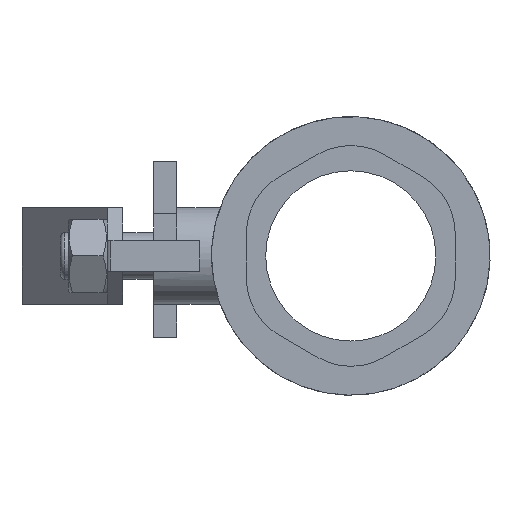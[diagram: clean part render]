
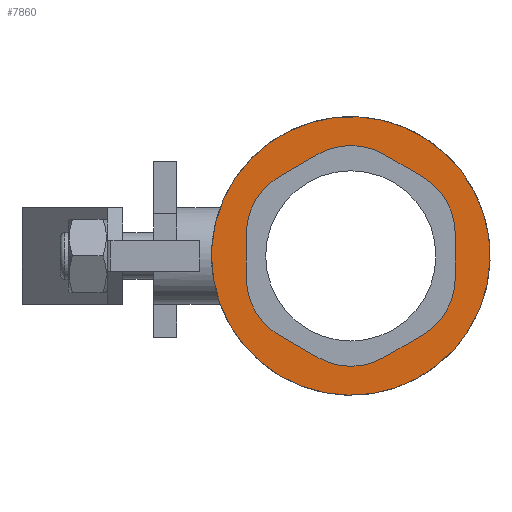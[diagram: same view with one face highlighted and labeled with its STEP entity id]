
A CAD part, left-side view. The second image highlights one B-rep face of the part: STEP entity #7860.
In plain terms, the highlighted planar face has unit normal (-1, 0, 0).
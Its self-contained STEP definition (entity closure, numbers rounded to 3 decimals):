
#7860=ADVANCED_FACE('',(#14589,#14591),#14593,.T.);
#14589=FACE_BOUND('',#14590,.T.);
#14590=EDGE_LOOP('',(#20160,#20161));
#14591=FACE_BOUND('',#14592,.T.);
#14592=EDGE_LOOP('',(#20162,#20163,#20164,#20165,#20166,#20167,#20168,#20169,#20170,
#20171,#20172,#20173));
#14593=PLANE('',#14594);
#14594=AXIS2_PLACEMENT_3D('',#14595,#14596,#14597);
#14595=CARTESIAN_POINT('',(5308.584,1937.978,0.));
#14596=DIRECTION('',(-1.,0.,0.));
#14597=DIRECTION('',(0.,0.,1.));
#20160=ORIENTED_EDGE('',*,*,#23083,.F.);
#20161=ORIENTED_EDGE('',*,*,#23082,.F.);
#20162=ORIENTED_EDGE('',*,*,#23037,.T.);
#20163=ORIENTED_EDGE('',*,*,#23070,.T.);
#20164=ORIENTED_EDGE('',*,*,#23067,.T.);
#20165=ORIENTED_EDGE('',*,*,#23063,.T.);
#20166=ORIENTED_EDGE('',*,*,#23061,.T.);
#20167=ORIENTED_EDGE('',*,*,#23057,.T.);
#20168=ORIENTED_EDGE('',*,*,#23055,.T.);
#20169=ORIENTED_EDGE('',*,*,#23051,.T.);
#20170=ORIENTED_EDGE('',*,*,#23049,.T.);
#20171=ORIENTED_EDGE('',*,*,#23045,.T.);
#20172=ORIENTED_EDGE('',*,*,#23043,.T.);
#20173=ORIENTED_EDGE('',*,*,#23039,.T.);
#23037=EDGE_CURVE('',#27389,#27387,#27390,.T.);
#23039=EDGE_CURVE('',#27392,#27389,#27393,.T.);
#23043=EDGE_CURVE('',#27399,#27392,#27400,.T.);
#23045=EDGE_CURVE('',#27402,#27399,#27403,.T.);
#23049=EDGE_CURVE('',#27409,#27402,#27410,.T.);
#23051=EDGE_CURVE('',#27412,#27409,#27413,.T.);
#23055=EDGE_CURVE('',#27419,#27412,#27420,.T.);
#23057=EDGE_CURVE('',#27422,#27419,#27423,.T.);
#23061=EDGE_CURVE('',#27429,#27422,#27430,.T.);
#23063=EDGE_CURVE('',#27432,#27429,#27433,.T.);
#23067=EDGE_CURVE('',#27439,#27432,#27440,.T.);
#23070=EDGE_CURVE('',#27387,#27439,#27443,.T.);
#23082=EDGE_CURVE('',#27464,#27465,#27466,.T.);
#23083=EDGE_CURVE('',#27465,#27464,#27467,.T.);
#27387=VERTEX_POINT('',#36824);
#27389=VERTEX_POINT('',#36828);
#27390=CIRCLE('',#36829,17.);
#27392=VERTEX_POINT('',#36836);
#27393=LINE('',#36837,#36838);
#27399=VERTEX_POINT('',#36852);
#27400=CIRCLE('',#36853,17.);
#27402=VERTEX_POINT('',#36860);
#27403=LINE('',#36861,#36862);
#27409=VERTEX_POINT('',#36876);
#27410=CIRCLE('',#36877,17.);
#27412=VERTEX_POINT('',#36884);
#27413=LINE('',#36885,#36886);
#27419=VERTEX_POINT('',#36900);
#27420=CIRCLE('',#36901,17.);
#27422=VERTEX_POINT('',#36908);
#27423=LINE('',#36909,#36910);
#27429=VERTEX_POINT('',#36924);
#27430=CIRCLE('',#36925,17.);
#27432=VERTEX_POINT('',#36932);
#27433=LINE('',#36933,#36934);
#27439=VERTEX_POINT('',#36948);
#27440=CIRCLE('',#36949,17.);
#27443=LINE('',#36959,#36960);
#27464=VERTEX_POINT('',#37294);
#27465=VERTEX_POINT('',#37295);
#27466=CIRCLE('',#37296,36.);
#27467=CIRCLE('',#37300,36.);
#36824=CARTESIAN_POINT('',(5308.584,1920.478,20.496));
#36828=CARTESIAN_POINT('',(5308.584,1928.978,5.774));
#36829=AXIS2_PLACEMENT_3D('',#36830,#36831,#36832);
#36830=CARTESIAN_POINT('',(5308.584,1911.978,5.774));
#36831=DIRECTION('',(1.,0.,0.));
#36832=DIRECTION('',(0.,1.,0.));
#36836=CARTESIAN_POINT('',(5308.584,1928.978,-5.774));
#36837=CARTESIAN_POINT('',(5308.584,1928.978,-5.774));
#36838=VECTOR('',#36839,1.);
#36839=DIRECTION('',(0.,0.,1.));
#36852=CARTESIAN_POINT('',(5308.584,1920.478,-20.496));
#36853=AXIS2_PLACEMENT_3D('',#36854,#36855,#36856);
#36854=CARTESIAN_POINT('',(5308.584,1911.978,-5.774));
#36855=DIRECTION('',(1.,0.,0.));
#36856=DIRECTION('',(0.,0.5,-0.866));
#36860=CARTESIAN_POINT('',(5308.584,1910.478,-26.269));
#36861=CARTESIAN_POINT('',(5308.584,1910.478,-26.269));
#36862=VECTOR('',#36863,1.);
#36863=DIRECTION('',(0.,0.866,0.5));
#36876=CARTESIAN_POINT('',(5308.584,1893.478,-26.269));
#36877=AXIS2_PLACEMENT_3D('',#36878,#36879,#36880);
#36878=CARTESIAN_POINT('',(5308.584,1901.978,-11.547));
#36879=DIRECTION('',(1.,0.,0.));
#36880=DIRECTION('',(0.,-0.5,-0.866));
#36884=CARTESIAN_POINT('',(5308.584,1883.478,-20.496));
#36885=CARTESIAN_POINT('',(5308.584,1883.478,-20.496));
#36886=VECTOR('',#36887,1.);
#36887=DIRECTION('',(0.,0.866,-0.5));
#36900=CARTESIAN_POINT('',(5308.584,1874.978,-5.774));
#36901=AXIS2_PLACEMENT_3D('',#36902,#36903,#36904);
#36902=CARTESIAN_POINT('',(5308.584,1891.978,-5.774));
#36903=DIRECTION('',(1.,0.,0.));
#36904=DIRECTION('',(0.,-1.,0.));
#36908=CARTESIAN_POINT('',(5308.584,1874.978,5.774));
#36909=CARTESIAN_POINT('',(5308.584,1874.978,5.774));
#36910=VECTOR('',#36911,1.);
#36911=DIRECTION('',(0.,0.,-1.));
#36924=CARTESIAN_POINT('',(5308.584,1883.478,20.496));
#36925=AXIS2_PLACEMENT_3D('',#36926,#36927,#36928);
#36926=CARTESIAN_POINT('',(5308.584,1891.978,5.774));
#36927=DIRECTION('',(1.,0.,0.));
#36928=DIRECTION('',(0.,-0.5,0.866));
#36932=CARTESIAN_POINT('',(5308.584,1893.478,26.269));
#36933=CARTESIAN_POINT('',(5308.584,1893.478,26.269));
#36934=VECTOR('',#36935,1.);
#36935=DIRECTION('',(0.,-0.866,-0.5));
#36948=CARTESIAN_POINT('',(5308.584,1910.478,26.269));
#36949=AXIS2_PLACEMENT_3D('',#36950,#36951,#36952);
#36950=CARTESIAN_POINT('',(5308.584,1901.978,11.547));
#36951=DIRECTION('',(1.,0.,0.));
#36952=DIRECTION('',(0.,0.5,0.866));
#36959=CARTESIAN_POINT('',(5308.584,1920.478,20.496));
#36960=VECTOR('',#36961,1.);
#36961=DIRECTION('',(0.,-0.866,0.5));
#37294=CARTESIAN_POINT('',(5308.584,1937.978,0.));
#37295=CARTESIAN_POINT('',(5308.584,1937.894,2.455));
#37296=AXIS2_PLACEMENT_3D('',#37297,#37298,#37299);
#37297=CARTESIAN_POINT('',(5308.584,1901.978,0.));
#37298=DIRECTION('',(1.,0.,0.));
#37299=DIRECTION('',(0.,1.,0.));
#37300=AXIS2_PLACEMENT_3D('',#37301,#37302,#37303);
#37301=CARTESIAN_POINT('',(5308.584,1901.978,0.));
#37302=DIRECTION('',(1.,0.,0.));
#37303=DIRECTION('',(0.,0.998,0.068));
